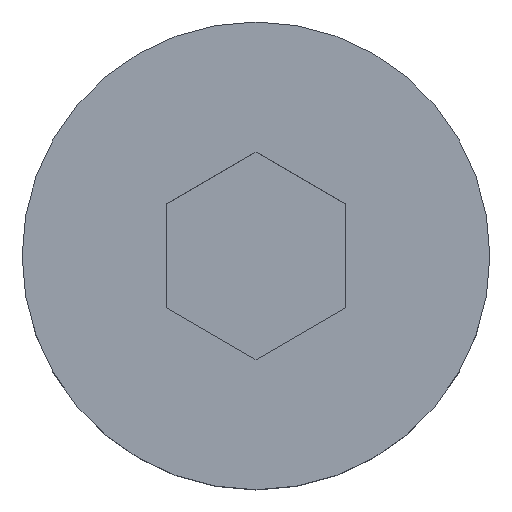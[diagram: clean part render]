
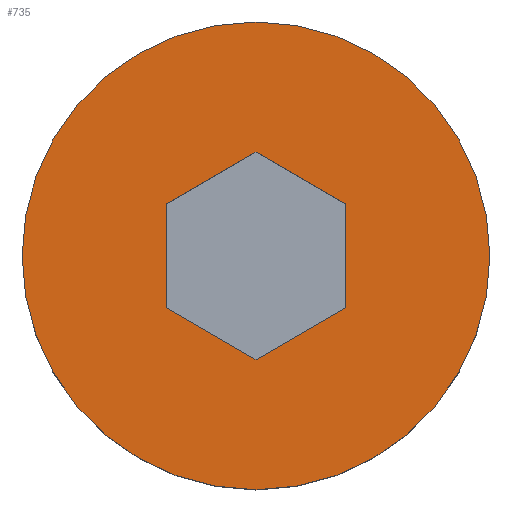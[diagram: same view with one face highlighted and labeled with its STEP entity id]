
A CAD part, top view. The second image highlights one B-rep face of the part: STEP entity #735.
In plain terms, the highlighted planar face has unit normal (0, 0, 1).
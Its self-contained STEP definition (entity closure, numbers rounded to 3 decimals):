
#4 = CIRCLE ( 'NONE', #433, 13. ) ;
#25 = DIRECTION ( 'NONE',  ( 0.866, 0.5, 0. ) ) ;
#32 = CARTESIAN_POINT ( 'NONE',  ( -5., 2.887, 8. ) ) ;
#51 = CARTESIAN_POINT ( 'NONE',  ( 0., 5.774, 8. ) ) ;
#92 = EDGE_CURVE ( 'NONE', #744, #765, #677, .T. ) ;
#99 = ORIENTED_EDGE ( 'NONE', *, *, #262, .F. ) ;
#100 = DIRECTION ( 'NONE',  ( 0., 0., -1. ) ) ;
#104 = VERTEX_POINT ( 'NONE', #51 ) ;
#118 = DIRECTION ( 'NONE',  ( 0.866, -0.5, 0. ) ) ;
#130 = VECTOR ( 'NONE', #25, 1000. ) ;
#151 = VERTEX_POINT ( 'NONE', #32 ) ;
#161 = EDGE_CURVE ( 'NONE', #310, #1086, #4, .T. ) ;
#197 = CARTESIAN_POINT ( 'NONE',  ( 0., -5.774, 8. ) ) ;
#221 = EDGE_CURVE ( 'NONE', #104, #151, #391, .T. ) ;
#225 = CARTESIAN_POINT ( 'NONE',  ( 0., 0., 8. ) ) ;
#241 = CARTESIAN_POINT ( 'NONE',  ( -5., 0., 8. ) ) ;
#245 = VECTOR ( 'NONE', #118, 1000. ) ;
#262 = EDGE_CURVE ( 'NONE', #356, #848, #686, .T. ) ;
#282 = PLANE ( 'NONE',  #523 ) ;
#290 = VECTOR ( 'NONE', #876, 1000. ) ;
#292 = DIRECTION ( 'NONE',  ( -0.866, 0.5, 0. ) ) ;
#296 = CARTESIAN_POINT ( 'NONE',  ( 7.25, 9.959, 8. ) ) ;
#308 = DIRECTION ( 'NONE',  ( 1., 0., 0. ) ) ;
#310 = VERTEX_POINT ( 'NONE', #751 ) ;
#316 = ORIENTED_EDGE ( 'NONE', *, *, #221, .F. ) ;
#317 = EDGE_CURVE ( 'NONE', #848, #744, #381, .T. ) ;
#349 = ORIENTED_EDGE ( 'NONE', *, *, #317, .F. ) ;
#356 = VERTEX_POINT ( 'NONE', #880 ) ;
#369 = ORIENTED_EDGE ( 'NONE', *, *, #706, .T. ) ;
#381 = LINE ( 'NONE', #936, #130 ) ;
#391 = LINE ( 'NONE', #296, #522 ) ;
#399 = CARTESIAN_POINT ( 'NONE',  ( 7.25, -9.959, 8. ) ) ;
#433 = AXIS2_PLACEMENT_3D ( 'NONE', #225, #852, #308 ) ;
#465 = CIRCLE ( 'NONE', #525, 13. ) ;
#473 = DIRECTION ( 'NONE',  ( 0., 0., 1. ) ) ;
#522 = VECTOR ( 'NONE', #839, 1000. ) ;
#523 = AXIS2_PLACEMENT_3D ( 'NONE', #649, #100, #734 ) ;
#525 = AXIS2_PLACEMENT_3D ( 'NONE', #1005, #473, #1101 ) ;
#548 = ORIENTED_EDGE ( 'NONE', *, *, #891, .F. ) ;
#560 = EDGE_LOOP ( 'NONE', ( #369, #832 ) ) ;
#563 = EDGE_LOOP ( 'NONE', ( #316, #548, #564, #349, #99, #572 ) ) ;
#564 = ORIENTED_EDGE ( 'NONE', *, *, #92, .F. ) ;
#572 = ORIENTED_EDGE ( 'NONE', *, *, #1009, .F. ) ;
#600 = DIRECTION ( 'NONE',  ( 0., 1., 0. ) ) ;
#649 = CARTESIAN_POINT ( 'NONE',  ( 13., 0., 8. ) ) ;
#677 = LINE ( 'NONE', #1154, #862 ) ;
#686 = LINE ( 'NONE', #399, #245 ) ;
#706 = EDGE_CURVE ( 'NONE', #1086, #310, #465, .T. ) ;
#734 = DIRECTION ( 'NONE',  ( -1., 0., 0. ) ) ;
#735 = ADVANCED_FACE ( 'NONE', ( #925, #1153 ), #282, .F. ) ;
#738 = VECTOR ( 'NONE', #292, 1000. ) ;
#744 = VERTEX_POINT ( 'NONE', #827 ) ;
#751 = CARTESIAN_POINT ( 'NONE',  ( -13., 0., 8. ) ) ;
#765 = VERTEX_POINT ( 'NONE', #1107 ) ;
#827 = CARTESIAN_POINT ( 'NONE',  ( 5., -2.887, 8. ) ) ;
#832 = ORIENTED_EDGE ( 'NONE', *, *, #161, .T. ) ;
#839 = DIRECTION ( 'NONE',  ( -0.866, -0.5, 0. ) ) ;
#847 = LINE ( 'NONE', #926, #738 ) ;
#848 = VERTEX_POINT ( 'NONE', #197 ) ;
#852 = DIRECTION ( 'NONE',  ( 0., 0., 1. ) ) ;
#862 = VECTOR ( 'NONE', #600, 1000. ) ;
#876 = DIRECTION ( 'NONE',  ( 0., -1., 0. ) ) ;
#878 = CARTESIAN_POINT ( 'NONE',  ( 13., 0., 8. ) ) ;
#880 = CARTESIAN_POINT ( 'NONE',  ( -5., -2.887, 8. ) ) ;
#891 = EDGE_CURVE ( 'NONE', #765, #104, #847, .T. ) ;
#925 = FACE_OUTER_BOUND ( 'NONE', #560, .T. ) ;
#926 = CARTESIAN_POINT ( 'NONE',  ( 12.25, -1.299, 8. ) ) ;
#936 = CARTESIAN_POINT ( 'NONE',  ( 12.25, 1.299, 8. ) ) ;
#1005 = CARTESIAN_POINT ( 'NONE',  ( 0., 0., 8. ) ) ;
#1009 = EDGE_CURVE ( 'NONE', #151, #356, #1013, .T. ) ;
#1013 = LINE ( 'NONE', #241, #290 ) ;
#1086 = VERTEX_POINT ( 'NONE', #878 ) ;
#1101 = DIRECTION ( 'NONE',  ( 1., 0., 0. ) ) ;
#1107 = CARTESIAN_POINT ( 'NONE',  ( 5., 2.887, 8. ) ) ;
#1153 = FACE_BOUND ( 'NONE', #563, .T. ) ;
#1154 = CARTESIAN_POINT ( 'NONE',  ( 5., 0., 8. ) ) ;
